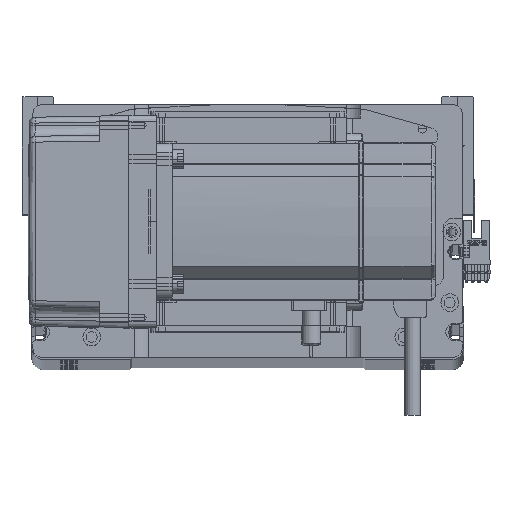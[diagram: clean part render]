
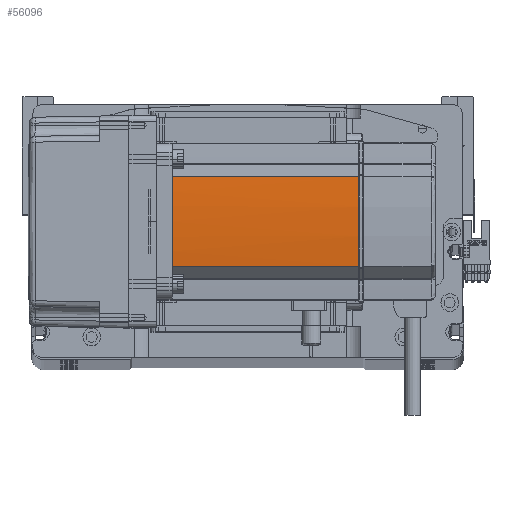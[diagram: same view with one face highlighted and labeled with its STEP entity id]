
A CAD part, top view. The second image highlights one B-rep face of the part: STEP entity #56096.
In plain terms, the highlighted cylindrical face has radius 270 mm (diameter 540 mm), a partial arc.
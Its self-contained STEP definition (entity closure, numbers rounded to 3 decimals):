
#1442 = CARTESIAN_POINT ( 'NONE',  ( 39.042, -22.724, 39. ) ) ;
#1459 = VERTEX_POINT ( 'NONE', #41380 ) ;
#2692 = VECTOR ( 'NONE', #28686, 1000. ) ;
#2858 = EDGE_CURVE ( 'NONE', #7979, #15672, #33964, .T. ) ;
#3728 = EDGE_CURVE ( 'NONE', #15672, #50299, #4763, .T. ) ;
#4763 = CIRCLE ( 'NONE', #11358, 270. ) ;
#6056 = CYLINDRICAL_SURFACE ( 'NONE', #46950, 270. ) ;
#6704 = ORIENTED_EDGE ( 'NONE', *, *, #3728, .T. ) ;
#7979 = VERTEX_POINT ( 'NONE', #42870 ) ;
#8085 = DIRECTION ( 'NONE',  ( 0., 0., -1. ) ) ;
#8543 = VECTOR ( 'NONE', #15943, 1000. ) ;
#9056 = EDGE_CURVE ( 'NONE', #1459, #50299, #19946, .T. ) ;
#9109 = EDGE_CURVE ( 'NONE', #23178, #23456, #27658, .T. ) ;
#11358 = AXIS2_PLACEMENT_3D ( 'NONE', #56411, #42360, #29125 ) ;
#12350 = CIRCLE ( 'NONE', #38605, 270. ) ;
#12667 = CARTESIAN_POINT ( 'NONE',  ( 40., 0.127, 134. ) ) ;
#13095 = DIRECTION ( 'NONE',  ( 0., 0., -1. ) ) ;
#15672 = VERTEX_POINT ( 'NONE', #19728 ) ;
#15943 = DIRECTION ( 'NONE',  ( 0., 0., -1. ) ) ;
#15991 = EDGE_CURVE ( 'NONE', #1459, #23178, #12350, .T. ) ;
#16757 = CARTESIAN_POINT ( 'NONE',  ( 40., -0.042, 134. ) ) ;
#19728 = CARTESIAN_POINT ( 'NONE',  ( 39.042, 22.724, 134. ) ) ;
#19946 = B_SPLINE_CURVE_WITH_KNOTS ( 'NONE', 3,
 ( #39461, #16757, #30460, #35024 ),
 .UNSPECIFIED., .F., .F.,
 ( 4, 4 ),
 ( 0., 1. ),
 .UNSPECIFIED. ) ;
#23178 = VERTEX_POINT ( 'NONE', #52981 ) ;
#23456 = VERTEX_POINT ( 'NONE', #1442 ) ;
#25304 = CARTESIAN_POINT ( 'NONE',  ( 39.042, -22.724, 58. ) ) ;
#26078 = DIRECTION ( 'NONE',  ( -1., 0., 0. ) ) ;
#27658 = LINE ( 'NONE', #25304, #8543 ) ;
#28686 = DIRECTION ( 'NONE',  ( 0., 0., 1. ) ) ;
#28872 = CIRCLE ( 'NONE', #30515, 270. ) ;
#29125 = DIRECTION ( 'NONE',  ( -1., 0., 0. ) ) ;
#30460 = CARTESIAN_POINT ( 'NONE',  ( 40., 0.042, 134. ) ) ;
#30515 = AXIS2_PLACEMENT_3D ( 'NONE', #53184, #8085, #26078 ) ;
#31380 = DIRECTION ( 'NONE',  ( -1., 0., 0. ) ) ;
#33964 = LINE ( 'NONE', #42678, #2692 ) ;
#35024 = CARTESIAN_POINT ( 'NONE',  ( 40., 0.127, 134. ) ) ;
#35545 = DIRECTION ( 'NONE',  ( 0., 0., -1. ) ) ;
#37523 = DIRECTION ( 'NONE',  ( -1., 0., 0. ) ) ;
#37906 = FACE_OUTER_BOUND ( 'NONE', #45964, .T. ) ;
#38605 = AXIS2_PLACEMENT_3D ( 'NONE', #58416, #35545, #31380 ) ;
#39461 = CARTESIAN_POINT ( 'NONE',  ( 40., -0.127, 134. ) ) ;
#41380 = CARTESIAN_POINT ( 'NONE',  ( 40., -0.127, 134. ) ) ;
#42360 = DIRECTION ( 'NONE',  ( 0., 0., -1. ) ) ;
#42678 = CARTESIAN_POINT ( 'NONE',  ( 39.042, 22.724, 58. ) ) ;
#42870 = CARTESIAN_POINT ( 'NONE',  ( 39.042, 22.724, 39. ) ) ;
#44765 = CARTESIAN_POINT ( 'NONE',  ( -230., 0., 58. ) ) ;
#45781 = ORIENTED_EDGE ( 'NONE', *, *, #9109, .T. ) ;
#45964 = EDGE_LOOP ( 'NONE', ( #45781, #54644, #46840, #6704, #55762, #54234 ) ) ;
#46354 = EDGE_CURVE ( 'NONE', #7979, #23456, #28872, .T. ) ;
#46840 = ORIENTED_EDGE ( 'NONE', *, *, #2858, .T. ) ;
#46950 = AXIS2_PLACEMENT_3D ( 'NONE', #44765, #13095, #37523 ) ;
#50299 = VERTEX_POINT ( 'NONE', #12667 ) ;
#52981 = CARTESIAN_POINT ( 'NONE',  ( 39.042, -22.724, 134. ) ) ;
#53184 = CARTESIAN_POINT ( 'NONE',  ( -230., 0., 39. ) ) ;
#54234 = ORIENTED_EDGE ( 'NONE', *, *, #15991, .T. ) ;
#54644 = ORIENTED_EDGE ( 'NONE', *, *, #46354, .F. ) ;
#55762 = ORIENTED_EDGE ( 'NONE', *, *, #9056, .F. ) ;
#56096 = ADVANCED_FACE ( 'NONE', ( #37906 ), #6056, .T. ) ;
#56411 = CARTESIAN_POINT ( 'NONE',  ( -230., 0., 134. ) ) ;
#58416 = CARTESIAN_POINT ( 'NONE',  ( -230., 0., 134. ) ) ;
